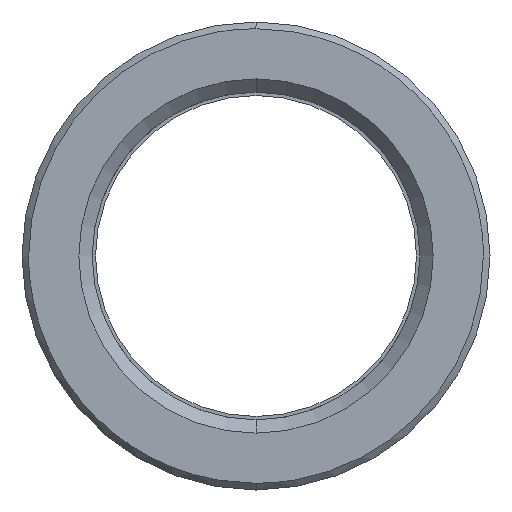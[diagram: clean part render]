
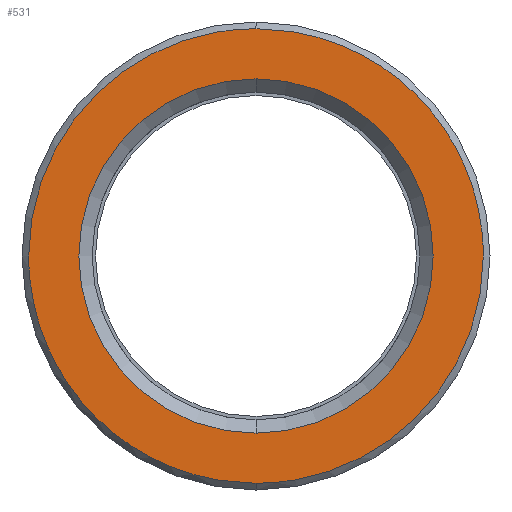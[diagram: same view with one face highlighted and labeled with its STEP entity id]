
A CAD part, left-side view. The second image highlights one B-rep face of the part: STEP entity #531.
In plain terms, the highlighted planar face has unit normal (-1, 0, 0).
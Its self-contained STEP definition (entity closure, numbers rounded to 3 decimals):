
#311=CARTESIAN_POINT('Axis2P3D Location',(0.,0.,0.)) ;
#315=CARTESIAN_POINT('Vertex',(0.,13.25,0.)) ;
#317=CARTESIAN_POINT('Vertex',(0.,0.,13.25)) ;
#320=CARTESIAN_POINT('Axis2P3D Location',(0.,0.,0.)) ;
#324=CARTESIAN_POINT('Vertex',(0.,0.,-13.25)) ;
#351=CARTESIAN_POINT('Axis2P3D Location',(0.,0.,0.)) ;
#355=CARTESIAN_POINT('Vertex',(0.,-13.25,0.)) ;
#358=CARTESIAN_POINT('Axis2P3D Location',(0.,0.,0.)) ;
#438=CARTESIAN_POINT('Axis2P3D Location',(0.,17.,0.)) ;
#444=CARTESIAN_POINT('Control Point',(0.,0.,-17.)) ;
#445=CARTESIAN_POINT('Control Point',(0.,1.123,-17.)) ;
#446=CARTESIAN_POINT('Control Point',(0.,2.246,-16.907)) ;
#447=CARTESIAN_POINT('Control Point',(0.,3.359,-16.722)) ;
#448=CARTESIAN_POINT('Control Point',(0.,6.023,-16.047)) ;
#449=CARTESIAN_POINT('Control Point',(0.,8.508,-14.851)) ;
#450=CARTESIAN_POINT('Control Point',(0.,9.884,-13.974)) ;
#451=CARTESIAN_POINT('Control Point',(0.,12.399,-11.909)) ;
#452=CARTESIAN_POINT('Control Point',(0.,14.361,-9.312)) ;
#453=CARTESIAN_POINT('Control Point',(0.,15.182,-7.903)) ;
#454=CARTESIAN_POINT('Control Point',(0.,16.222,-5.498)) ;
#455=CARTESIAN_POINT('Control Point',(0.,16.786,-2.951)) ;
#456=CARTESIAN_POINT('Control Point',(0.,16.929,-1.972)) ;
#457=CARTESIAN_POINT('Control Point',(0.,17.,-0.986)) ;
#458=CARTESIAN_POINT('Control Point',(0.,17.,0.)) ;
#459=CARTESIAN_POINT('Vertex',(0.,0.,-17.)) ;
#461=CARTESIAN_POINT('Vertex',(0.,17.,0.)) ;
#465=CARTESIAN_POINT('Control Point',(0.,-17.,0.)) ;
#466=CARTESIAN_POINT('Control Point',(0.,-17.,-1.616)) ;
#467=CARTESIAN_POINT('Control Point',(0.,-16.808,-3.232)) ;
#468=CARTESIAN_POINT('Control Point',(0.,-16.424,-4.817)) ;
#469=CARTESIAN_POINT('Control Point',(0.,-15.287,-7.867)) ;
#470=CARTESIAN_POINT('Control Point',(0.,-13.466,-10.565)) ;
#471=CARTESIAN_POINT('Control Point',(0.,-12.399,-11.799)) ;
#472=CARTESIAN_POINT('Control Point',(0.,-9.993,-13.99)) ;
#473=CARTESIAN_POINT('Control Point',(0.,-7.14,-15.556)) ;
#474=CARTESIAN_POINT('Control Point',(0.,-5.626,-16.165)) ;
#475=CARTESIAN_POINT('Control Point',(0.,-3.576,-16.717)) ;
#476=CARTESIAN_POINT('Control Point',(0.,-1.478,-16.946)) ;
#477=CARTESIAN_POINT('Control Point',(0.,-0.986,-16.982)) ;
#478=CARTESIAN_POINT('Control Point',(0.,-0.493,-17.)) ;
#479=CARTESIAN_POINT('Control Point',(0.,0.,-17.)) ;
#480=CARTESIAN_POINT('Vertex',(0.,-17.,0.)) ;
#484=CARTESIAN_POINT('Control Point',(0.,0.,17.)) ;
#485=CARTESIAN_POINT('Control Point',(0.,-1.123,17.)) ;
#486=CARTESIAN_POINT('Control Point',(0.,-2.246,16.907)) ;
#487=CARTESIAN_POINT('Control Point',(0.,-3.359,16.722)) ;
#488=CARTESIAN_POINT('Control Point',(0.,-6.023,16.047)) ;
#489=CARTESIAN_POINT('Control Point',(0.,-8.508,14.851)) ;
#490=CARTESIAN_POINT('Control Point',(0.,-9.884,13.974)) ;
#491=CARTESIAN_POINT('Control Point',(0.,-12.399,11.909)) ;
#492=CARTESIAN_POINT('Control Point',(0.,-14.361,9.312)) ;
#493=CARTESIAN_POINT('Control Point',(0.,-15.182,7.903)) ;
#494=CARTESIAN_POINT('Control Point',(0.,-16.222,5.498)) ;
#495=CARTESIAN_POINT('Control Point',(0.,-16.786,2.951)) ;
#496=CARTESIAN_POINT('Control Point',(0.,-16.929,1.972)) ;
#497=CARTESIAN_POINT('Control Point',(0.,-17.,0.986)) ;
#498=CARTESIAN_POINT('Control Point',(0.,-17.,0.)) ;
#499=CARTESIAN_POINT('Vertex',(0.,0.,17.)) ;
#503=CARTESIAN_POINT('Control Point',(0.,17.,0.)) ;
#504=CARTESIAN_POINT('Control Point',(0.,17.,1.616)) ;
#505=CARTESIAN_POINT('Control Point',(0.,16.808,3.232)) ;
#506=CARTESIAN_POINT('Control Point',(0.,16.424,4.817)) ;
#507=CARTESIAN_POINT('Control Point',(0.,15.287,7.867)) ;
#508=CARTESIAN_POINT('Control Point',(0.,13.466,10.565)) ;
#509=CARTESIAN_POINT('Control Point',(0.,12.399,11.799)) ;
#510=CARTESIAN_POINT('Control Point',(0.,9.993,13.99)) ;
#511=CARTESIAN_POINT('Control Point',(0.,7.14,15.556)) ;
#512=CARTESIAN_POINT('Control Point',(0.,5.626,16.165)) ;
#513=CARTESIAN_POINT('Control Point',(0.,3.576,16.717)) ;
#514=CARTESIAN_POINT('Control Point',(0.,1.478,16.946)) ;
#515=CARTESIAN_POINT('Control Point',(0.,0.986,16.982)) ;
#516=CARTESIAN_POINT('Control Point',(0.,0.493,17.)) ;
#517=CARTESIAN_POINT('Control Point',(0.,0.,17.)) ;
#312=DIRECTION('Axis2P3D Direction',(-1.,0.,0.)) ;
#321=DIRECTION('Axis2P3D Direction',(-1.,0.,0.)) ;
#352=DIRECTION('Axis2P3D Direction',(-1.,0.,0.)) ;
#359=DIRECTION('Axis2P3D Direction',(-1.,0.,0.)) ;
#439=DIRECTION('Axis2P3D Direction',(-1.,0.,0.)) ;
#440=DIRECTION('Axis2P3D XDirection',(0.,0.,1.)) ;
#313=AXIS2_PLACEMENT_3D('Circle Axis2P3D',#311,#312,$) ;
#322=AXIS2_PLACEMENT_3D('Circle Axis2P3D',#320,#321,$) ;
#353=AXIS2_PLACEMENT_3D('Circle Axis2P3D',#351,#352,$) ;
#360=AXIS2_PLACEMENT_3D('Circle Axis2P3D',#358,#359,$) ;
#441=AXIS2_PLACEMENT_3D('Plane Axis2P3D',#438,#439,#440) ;
#520=ORIENTED_EDGE('',*,*,#463,.F.) ;
#521=ORIENTED_EDGE('',*,*,#482,.F.) ;
#522=ORIENTED_EDGE('',*,*,#501,.F.) ;
#523=ORIENTED_EDGE('',*,*,#518,.F.) ;
#526=ORIENTED_EDGE('',*,*,#319,.T.) ;
#527=ORIENTED_EDGE('',*,*,#362,.T.) ;
#528=ORIENTED_EDGE('',*,*,#357,.T.) ;
#529=ORIENTED_EDGE('',*,*,#326,.T.) ;
#530=FACE_BOUND('',#525,.T.) ;
#531=ADVANCED_FACE('553-24X136',(#524,#530),#442,.T.) ;
#443=B_SPLINE_CURVE_WITH_KNOTS('',5,(#444,#445,#446,#447,#448,#449,#450,#451,#452,#453,#454,#455,#456,#457,#458),.UNSPECIFIED.,.F.,.U.,(6,3,3,3,6),(37.764,45.705,57.131,68.557,75.528),.UNSPECIFIED.) ;
#464=B_SPLINE_CURVE_WITH_KNOTS('',5,(#465,#466,#467,#468,#469,#470,#471,#472,#473,#474,#475,#476,#477,#478,#479),.UNSPECIFIED.,.F.,.U.,(6,3,3,3,6),(0.,11.426,22.852,34.279,37.764),.UNSPECIFIED.) ;
#483=B_SPLINE_CURVE_WITH_KNOTS('',5,(#484,#485,#486,#487,#488,#489,#490,#491,#492,#493,#494,#495,#496,#497,#498),.UNSPECIFIED.,.F.,.U.,(6,3,3,3,6),(37.764,45.705,57.131,68.557,75.528),.UNSPECIFIED.) ;
#502=B_SPLINE_CURVE_WITH_KNOTS('',5,(#503,#504,#505,#506,#507,#508,#509,#510,#511,#512,#513,#514,#515,#516,#517),.UNSPECIFIED.,.F.,.U.,(6,3,3,3,6),(0.,11.426,22.852,34.279,37.764),.UNSPECIFIED.) ;
#314=CIRCLE('generated circle',#313,13.25) ;
#323=CIRCLE('generated circle',#322,13.25) ;
#354=CIRCLE('generated circle',#353,13.25) ;
#361=CIRCLE('generated circle',#360,13.25) ;
#319=EDGE_CURVE('',#316,#318,#314,.F.) ;
#326=EDGE_CURVE('',#325,#316,#323,.F.) ;
#357=EDGE_CURVE('',#356,#325,#354,.F.) ;
#362=EDGE_CURVE('',#318,#356,#361,.F.) ;
#463=EDGE_CURVE('',#460,#462,#443,.T.) ;
#482=EDGE_CURVE('',#481,#460,#464,.T.) ;
#501=EDGE_CURVE('',#500,#481,#483,.T.) ;
#518=EDGE_CURVE('',#462,#500,#502,.T.) ;
#519=EDGE_LOOP('',(#520,#521,#522,#523)) ;
#525=EDGE_LOOP('',(#526,#527,#528,#529)) ;
#524=FACE_OUTER_BOUND('',#519,.T.) ;
#442=PLANE('Plane',#441) ;
#316=VERTEX_POINT('',#315) ;
#318=VERTEX_POINT('',#317) ;
#325=VERTEX_POINT('',#324) ;
#356=VERTEX_POINT('',#355) ;
#460=VERTEX_POINT('',#459) ;
#462=VERTEX_POINT('',#461) ;
#481=VERTEX_POINT('',#480) ;
#500=VERTEX_POINT('',#499) ;
